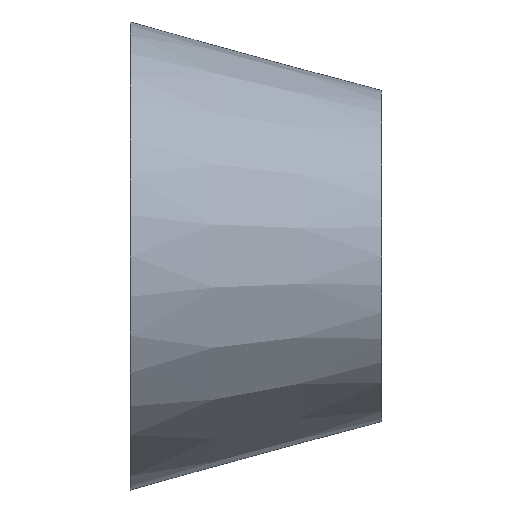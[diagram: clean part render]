
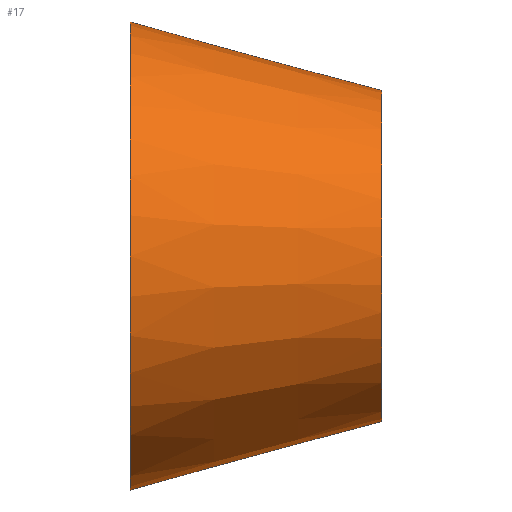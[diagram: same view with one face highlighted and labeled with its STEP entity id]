
A CAD part, front view. The second image highlights one B-rep face of the part: STEP entity #17.
In plain terms, the highlighted conical face has half-angle 15.255 degrees and reference radius 20.5 mm.
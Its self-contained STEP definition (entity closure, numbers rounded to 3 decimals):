
#17 = ADVANCED_FACE('',(#18),#31,.T.);
#18 = FACE_BOUND('',#19,.T.);
#19 = EDGE_LOOP('',(#20,#54,#74,#101));
#20 = ORIENTED_EDGE('',*,*,#21,.T.);
#21 = EDGE_CURVE('',#22,#22,#24,.T.);
#22 = VERTEX_POINT('',#23);
#23 = CARTESIAN_POINT('',(0.,20.5,0.));
#24 = SURFACE_CURVE('',#25,(#30,#42),.PCURVE_S1.);
#25 = CIRCLE('',#26,20.5);
#26 = AXIS2_PLACEMENT_3D('',#27,#28,#29);
#27 = CARTESIAN_POINT('',(0.,0.,0.));
#28 = DIRECTION('',(1.,0.,0.));
#29 = DIRECTION('',(0.,1.,0.));
#30 = PCURVE('',#31,#36);
#31 = CONICAL_SURFACE('',#32,20.5,0.266);
#32 = AXIS2_PLACEMENT_3D('',#33,#34,#35);
#33 = CARTESIAN_POINT('',(0.,0.,0.));
#34 = DIRECTION('',(-1.,-0.,-0.));
#35 = DIRECTION('',(0.,1.,0.));
#36 = DEFINITIONAL_REPRESENTATION('',(#37),#41);
#37 = LINE('',#38,#39);
#38 = CARTESIAN_POINT('',(-0.,-0.));
#39 = VECTOR('',#40,1.);
#40 = DIRECTION('',(-1.,-0.));
#41 = ( GEOMETRIC_REPRESENTATION_CONTEXT(2) 
PARAMETRIC_REPRESENTATION_CONTEXT() REPRESENTATION_CONTEXT('2D SPACE',''
  ) );
#42 = PCURVE('',#43,#48);
#43 = PLANE('',#44);
#44 = AXIS2_PLACEMENT_3D('',#45,#46,#47);
#45 = CARTESIAN_POINT('',(0.,0.,0.));
#46 = DIRECTION('',(1.,0.,0.));
#47 = DIRECTION('',(0.,1.,0.));
#48 = DEFINITIONAL_REPRESENTATION('',(#49),#53);
#49 = CIRCLE('',#50,20.5);
#50 = AXIS2_PLACEMENT_2D('',#51,#52);
#51 = CARTESIAN_POINT('',(0.,0.));
#52 = DIRECTION('',(1.,0.));
#53 = ( GEOMETRIC_REPRESENTATION_CONTEXT(2) 
PARAMETRIC_REPRESENTATION_CONTEXT() REPRESENTATION_CONTEXT('2D SPACE',''
  ) );
#54 = ORIENTED_EDGE('',*,*,#55,.T.);
#55 = EDGE_CURVE('',#22,#56,#58,.T.);
#56 = VERTEX_POINT('',#57);
#57 = CARTESIAN_POINT('',(22.,14.5,0.));
#58 = SEAM_CURVE('',#59,(#62,#68),.PCURVE_S1.);
#59 = B_SPLINE_CURVE_WITH_KNOTS('',1,(#60,#61),.UNSPECIFIED.,.F.,.F.,(2,
    2),(0.,1.),.PIECEWISE_BEZIER_KNOTS.);
#60 = CARTESIAN_POINT('',(0.,20.5,0.));
#61 = CARTESIAN_POINT('',(22.,14.5,0.));
#62 = PCURVE('',#31,#63);
#63 = DEFINITIONAL_REPRESENTATION('',(#64),#67);
#64 = B_SPLINE_CURVE_WITH_KNOTS('',1,(#65,#66),.UNSPECIFIED.,.F.,.F.,(2,
    2),(0.,1.),.PIECEWISE_BEZIER_KNOTS.);
#65 = CARTESIAN_POINT('',(-6.283,0.));
#66 = CARTESIAN_POINT('',(-6.283,-22.));
#67 = ( GEOMETRIC_REPRESENTATION_CONTEXT(2) 
PARAMETRIC_REPRESENTATION_CONTEXT() REPRESENTATION_CONTEXT('2D SPACE',''
  ) );
#68 = PCURVE('',#31,#69);
#69 = DEFINITIONAL_REPRESENTATION('',(#70),#73);
#70 = B_SPLINE_CURVE_WITH_KNOTS('',1,(#71,#72),.UNSPECIFIED.,.F.,.F.,(2,
    2),(0.,1.),.PIECEWISE_BEZIER_KNOTS.);
#71 = CARTESIAN_POINT('',(0.,0.));
#72 = CARTESIAN_POINT('',(0.,-22.));
#73 = ( GEOMETRIC_REPRESENTATION_CONTEXT(2) 
PARAMETRIC_REPRESENTATION_CONTEXT() REPRESENTATION_CONTEXT('2D SPACE',''
  ) );
#74 = ORIENTED_EDGE('',*,*,#75,.F.);
#75 = EDGE_CURVE('',#56,#56,#76,.T.);
#76 = SURFACE_CURVE('',#77,(#82,#89),.PCURVE_S1.);
#77 = CIRCLE('',#78,14.5);
#78 = AXIS2_PLACEMENT_3D('',#79,#80,#81);
#79 = CARTESIAN_POINT('',(22.,0.,0.));
#80 = DIRECTION('',(1.,0.,0.));
#81 = DIRECTION('',(0.,1.,0.));
#82 = PCURVE('',#31,#83);
#83 = DEFINITIONAL_REPRESENTATION('',(#84),#88);
#84 = LINE('',#85,#86);
#85 = CARTESIAN_POINT('',(-0.,-22.));
#86 = VECTOR('',#87,1.);
#87 = DIRECTION('',(-1.,-0.));
#88 = ( GEOMETRIC_REPRESENTATION_CONTEXT(2) 
PARAMETRIC_REPRESENTATION_CONTEXT() REPRESENTATION_CONTEXT('2D SPACE',''
  ) );
#89 = PCURVE('',#90,#95);
#90 = PLANE('',#91);
#91 = AXIS2_PLACEMENT_3D('',#92,#93,#94);
#92 = CARTESIAN_POINT('',(22.,0.,0.));
#93 = DIRECTION('',(1.,0.,0.));
#94 = DIRECTION('',(0.,1.,0.));
#95 = DEFINITIONAL_REPRESENTATION('',(#96),#100);
#96 = CIRCLE('',#97,14.5);
#97 = AXIS2_PLACEMENT_2D('',#98,#99);
#98 = CARTESIAN_POINT('',(0.,0.));
#99 = DIRECTION('',(1.,0.));
#100 = ( GEOMETRIC_REPRESENTATION_CONTEXT(2) 
PARAMETRIC_REPRESENTATION_CONTEXT() REPRESENTATION_CONTEXT('2D SPACE',''
  ) );
#101 = ORIENTED_EDGE('',*,*,#55,.F.);
